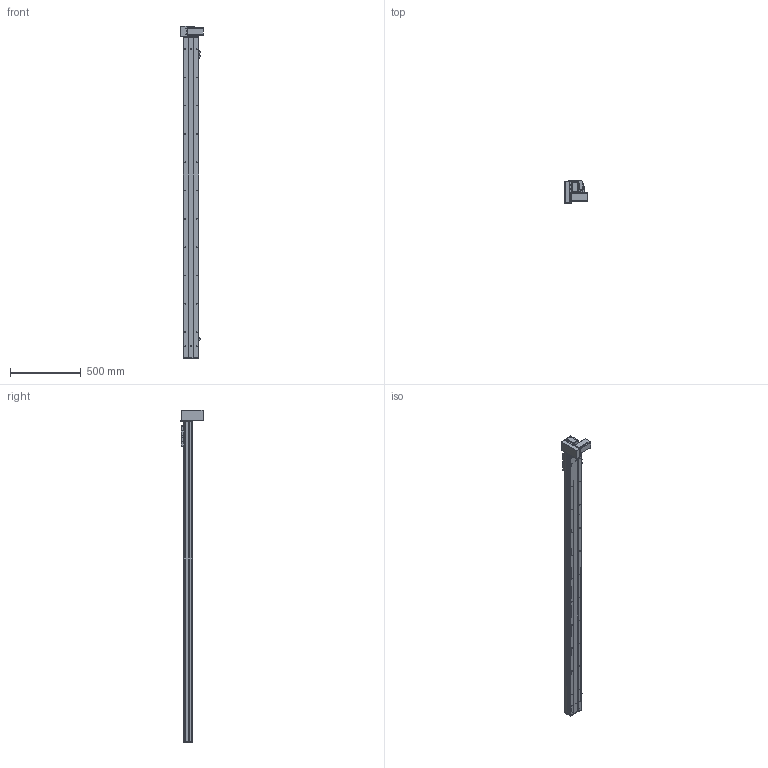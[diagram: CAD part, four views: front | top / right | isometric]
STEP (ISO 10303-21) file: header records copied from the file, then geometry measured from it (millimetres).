
FILE_DESCRIPTION (( 'STEP AP203' ), '1' );
FILE_NAME ('Y10CB-D90-S2000-BM-P400W.STEP', '2020-02-17T02:00:47', ( '微软用户' ), ( '微软中国' ), 'SwSTEP 2.0', 'SolidWorks 2017', '' );
FILE_SCHEMA (( 'CONFIG_CONTROL_DESIGN' ));
Length unit declared in the file: millimetre
Products named in the file (18): Y10CB-D90-S2000-BM-P400W; Y10C---詩湍揤啣; 0Cb-俋欶---; 10CB9-掛极; Y10B-々湍喘謫眊楊擘啣--; 10CB-耜裔; 0B-萇儂楊擘啣; Y135C-陔俋离換覜結え-; san松下电机400不带刹车----; Y100-135俋离換覜ん--; 0B-源倛裔啣; Y10B--々湍喘謫眊--666; 0B-埴倛裔啣; 00B-俋欶BM--; 10CB-詩湍-; Y10B-耜蚾蟀諉啣----; Y10CB- 掛极耜裔啣-毀---; 0CB-雄赽釱---
Assembly tree (21 placements, depth 2):
  Y10CB-D90-S2000-BM-P400W
    0CB-雄赽釱---
    0Cb-俋欶---
    Y10B-々湍喘謫眊楊擘啣--
    0B-萇儂楊擘啣
    san松下电机400不带刹车----
    0B-源倛裔啣
    0B-埴倛裔啣
    10CB-詩湍-
    Y10CB- 掛极耜裔啣-毀---  x2
    Y10C---詩湍揤啣  x2
    10CB9-掛极
    10CB-耜裔
    Y135C-陔俋离換覜結え-
    Y100-135俋离換覜ん--  x3
    Y10B--々湍喘謫眊--666
    00B-俋欶BM--
    Y10B-耜蚾蟀諉啣----
Bounding box: 157 x 156 x 2346 mm (x, y, z)
Volume: 4880847.8 mm3; surface area: 2291946.9 mm2
Topology: 21 solids, 21 shells, 1050 faces, 2843 edges, 1850 vertices
Faces by surface type: cylinder 539, plane 487, cone 24
Entity records: 33412 total; most frequent: CARTESIAN_POINT 6209, DIRECTION 5338, ORIENTED_EDGE 5156, EDGE_CURVE 2578, AXIS2_PLACEMENT_3D 1909, VERTEX_POINT 1676, VECTOR 1520, LINE 1520
